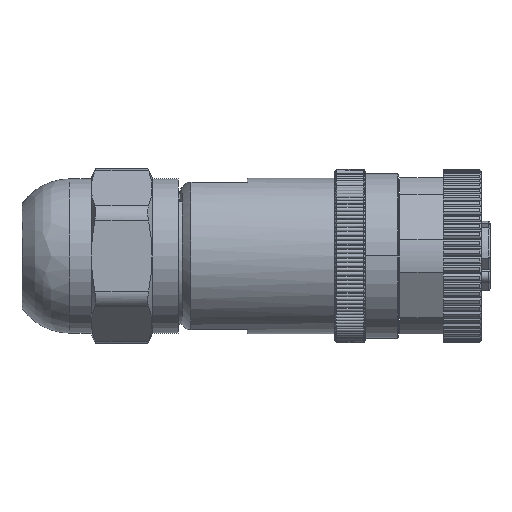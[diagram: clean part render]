
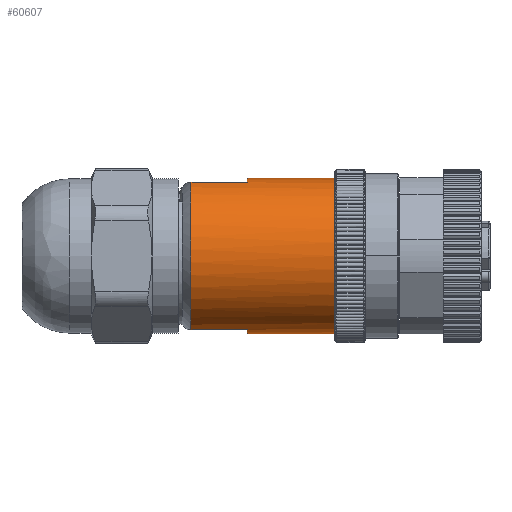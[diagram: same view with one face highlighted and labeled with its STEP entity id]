
A CAD part, left-side view. The second image highlights one B-rep face of the part: STEP entity #60607.
In plain terms, the highlighted cylindrical face has radius 8.95 mm (diameter 17.9 mm), a partial arc.
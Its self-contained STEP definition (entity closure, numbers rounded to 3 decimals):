
#14109=CARTESIAN_POINT('',(0.,21.5,0.));
#14110=DIRECTION('',(0.,1.,0.));
#14111=DIRECTION('',(-0.313,0.,-0.95));
#14112=AXIS2_PLACEMENT_3D('',#14109,#14110,#14111);
#14381=CARTESIAN_POINT('',(0.,4.9,0.));
#14382=DIRECTION('',(0.,-1.,0.));
#14383=DIRECTION('',(0.,0.,1.));
#14384=AXIS2_PLACEMENT_3D('',#14381,#14382,#14383);
#14386=DIRECTION('',(0.,-1.,0.));
#14387=VECTOR('',#14386,10.1);
#14388=CARTESIAN_POINT('',(0.,15.,-8.95));
#14389=LINE('',#14388,#14387);
#14390=DIRECTION('',(0.,-1.,0.));
#14391=VECTOR('',#14390,6.5);
#14392=CARTESIAN_POINT('',(-2.802,21.5,
-8.5));
#14393=LINE('',#14392,#14391);
#14394=DIRECTION('',(0.,1.,0.));
#14395=VECTOR('',#14394,6.5);
#14396=CARTESIAN_POINT('',(-2.802,15.,8.5));
#14397=LINE('',#14396,#14395);
#14398=DIRECTION('',(0.,-1.,0.));
#14399=VECTOR('',#14398,10.1);
#14400=CARTESIAN_POINT('',(0.,15.,8.95));
#14401=LINE('',#14400,#14399);
#26342=CARTESIAN_POINT('',(0.,15.,0.));
#26343=DIRECTION('',(0.,1.,0.));
#26344=DIRECTION('',(-0.313,0.,0.95));
#26345=AXIS2_PLACEMENT_3D('',#26342,#26343,#26344);
#26351=CARTESIAN_POINT('',(0.,15.,0.));
#26352=DIRECTION('',(0.,1.,0.));
#26353=DIRECTION('',(0.,0.,-1.));
#26354=AXIS2_PLACEMENT_3D('',#26351,#26352,#26353);
#42006=CARTESIAN_POINT('',(-2.802,15.,-8.5));
#42008=VERTEX_POINT('',#42006);
#42009=CARTESIAN_POINT('',(-2.802,15.,8.5));
#42011=VERTEX_POINT('',#42009);
#42173=CARTESIAN_POINT('',(0.,15.,-8.95));
#42174=VERTEX_POINT('',#42173);
#42177=CARTESIAN_POINT('',(0.,15.,8.95));
#42178=VERTEX_POINT('',#42177);
#42185=CARTESIAN_POINT('',(-2.802,21.5,
-8.5));
#42186=VERTEX_POINT('',#42185);
#42187=CARTESIAN_POINT('',(-2.802,21.5,
8.5));
#42188=VERTEX_POINT('',#42187);
#46401=CARTESIAN_POINT('',(0.,4.9,-8.95));
#46402=VERTEX_POINT('',#46401);
#46403=CARTESIAN_POINT('',(0.,4.9,8.95));
#46404=VERTEX_POINT('',#46403);
#60586=CARTESIAN_POINT('',(0.,33.5,0.));
#60587=DIRECTION('',(0.,-1.,0.));
#60588=DIRECTION('',(0.,0.,-1.));
#60589=AXIS2_PLACEMENT_3D('',#60586,#60587,#60588);
#60590=CYLINDRICAL_SURFACE('',#60589,8.95);
#60592=ORIENTED_EDGE('',*,*,#60591,.T.);
#60594=ORIENTED_EDGE('',*,*,#60593,.F.);
#60596=ORIENTED_EDGE('',*,*,#60595,.T.);
#60598=ORIENTED_EDGE('',*,*,#60597,.F.);
#60599=ORIENTED_EDGE('',*,*,#60476,.T.);
#60600=ORIENTED_EDGE('',*,*,#60465,.F.);
#60602=ORIENTED_EDGE('',*,*,#60601,.T.);
#60604=ORIENTED_EDGE('',*,*,#60603,.T.);
#60605=EDGE_LOOP('',(#60592,#60594,#60596,#60598,#60599,#60600,#60602,#60604));
#60606=FACE_OUTER_BOUND('',#60605,.F.);
#60607=ADVANCED_FACE('',(#60606),#60590,.T.);
#14113=CIRCLE('',#14112,8.95);
#14385=CIRCLE('',#14384,8.95);
#26346=CIRCLE('',#26345,8.95);
#26355=CIRCLE('',#26354,8.95);
#60465=EDGE_CURVE('',#42011,#42188,#14397,.T.);
#60476=EDGE_CURVE('',#42186,#42188,#14113,.T.);
#60591=EDGE_CURVE('',#46404,#46402,#14385,.T.);
#60593=EDGE_CURVE('',#42174,#46402,#14389,.T.);
#60595=EDGE_CURVE('',#42174,#42008,#26355,.T.);
#60597=EDGE_CURVE('',#42186,#42008,#14393,.T.);
#60601=EDGE_CURVE('',#42011,#42178,#26346,.T.);
#60603=EDGE_CURVE('',#42178,#46404,#14401,.T.);
